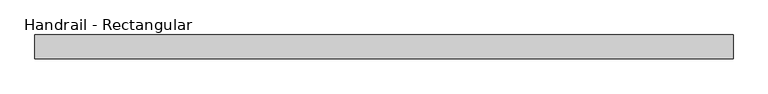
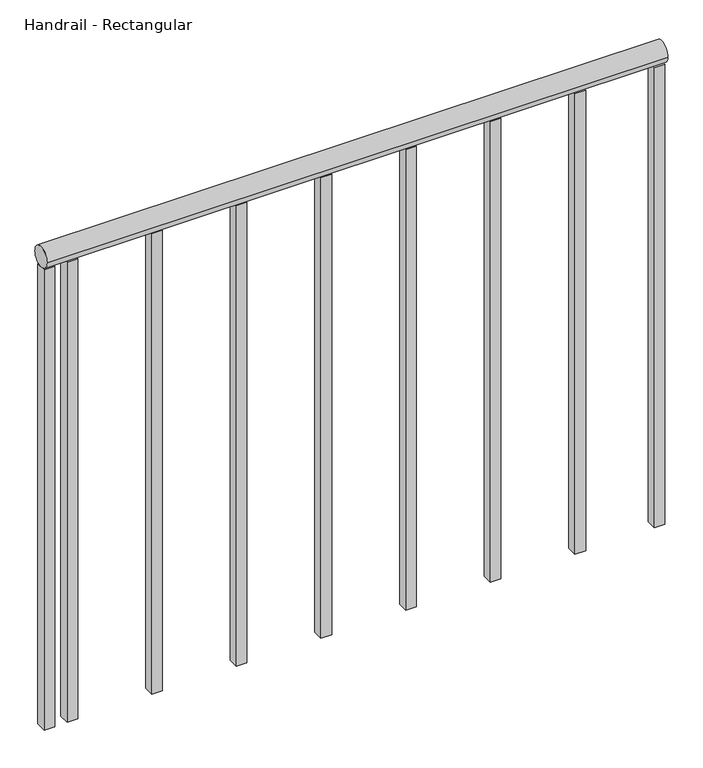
"""IFC4 building model written with IfcOpenShell, lengths in millimetres: railing geometry, Handrail - Rectangular."""

from ifc_helpers import new_model, si_unit, point, frame, frame_2d, origin, place, context, project, spatial, polyline, circle_curve, trimmed, segment, composite_curve, outline, extrude, source, transform, mapped, element, save


def handrail_rectangular_aef8fcb5(model_context):
    return source(origin(), model_context, "Body", "SweptSolid", [
        extrude(outline(composite_curve([segment(trimmed(circle_curve(frame_2d((-27983.9683133, 10039.35)), 19.05), [point((-27964.9183133, 10039.35))], [point((-28003.0183133, 10039.35))], False, "CARTESIAN"), True, "CONTINUOUS"), segment(trimmed(circle_curve(frame_2d((-27983.9683133, 10039.35)), 19.05), [point((-28003.0183133, 10039.35))], [point((-27964.9183133, 10039.35))], False, "CARTESIAN"), True, "CONTINUOUS")], self_intersect=False)), frame((976.3410437, 0.0, 0.0), z_axis=(1.0, 0.0, 0.0), x_axis=(0.0, 1.0, 0.0)), (0.0, 0.0, 1.0), 1117.6),
        extrude(outline(polyline([(1036.6660437, -27993.4933133), (1017.6160437, -27993.4933133), (1017.6160437, -27974.4433133), (1036.6660437, -27974.4433133), (1036.6660437, -27993.4933133)])), frame((0.0, 0.0, 9144.0), z_axis=(0.0, 0.0, 1.0), x_axis=(1.0, 0.0, 0.0)), (0.0, 0.0, 1.0), 876.3),
        extrude(outline(polyline([(1189.0660437, -27993.4933133), (1170.0160437, -27993.4933133), (1170.0160437, -27974.4433133), (1189.0660437, -27974.4433133), (1189.0660437, -27993.4933133)])), frame((0.0, 0.0, 9144.0), z_axis=(0.0, 0.0, 1.0), x_axis=(1.0, 0.0, 0.0)), (0.0, 0.0, 1.0), 876.3),
        extrude(outline(polyline([(1341.4660437, -27993.4933133), (1322.4160437, -27993.4933133), (1322.4160437, -27974.4433133), (1341.4660437, -27974.4433133), (1341.4660437, -27993.4933133)])), frame((0.0, 0.0, 9144.0), z_axis=(0.0, 0.0, 1.0), x_axis=(1.0, 0.0, 0.0)), (0.0, 0.0, 1.0), 876.3),
        extrude(outline(polyline([(1493.8660437, -27993.4933133), (1474.8160437, -27993.4933133), (1474.8160437, -27974.4433133), (1493.8660437, -27974.4433133), (1493.8660437, -27993.4933133)])), frame((0.0, 0.0, 9144.0), z_axis=(0.0, 0.0, 1.0), x_axis=(1.0, 0.0, 0.0)), (0.0, 0.0, 1.0), 876.3),
        extrude(outline(polyline([(1646.2660437, -27993.4933133), (1627.2160437, -27993.4933133), (1627.2160437, -27974.4433133), (1646.2660437, -27974.4433133), (1646.2660437, -27993.4933133)])), frame((0.0, 0.0, 9144.0), z_axis=(0.0, 0.0, 1.0), x_axis=(1.0, 0.0, 0.0)), (0.0, 0.0, 1.0), 876.3),
        extrude(outline(polyline([(1798.6660437, -27993.4933133), (1779.6160437, -27993.4933133), (1779.6160437, -27974.4433133), (1798.6660437, -27974.4433133), (1798.6660437, -27993.4933133)])), frame((0.0, 0.0, 9144.0), z_axis=(0.0, 0.0, 1.0), x_axis=(1.0, 0.0, 0.0)), (0.0, 0.0, 1.0), 876.3),
        extrude(outline(polyline([(1951.0660437, -27993.4933133), (1932.0160437, -27993.4933133), (1932.0160437, -27974.4433133), (1951.0660437, -27974.4433133), (1951.0660437, -27993.4933133)])), frame((0.0, 0.0, 9144.0), z_axis=(0.0, 0.0, 1.0), x_axis=(1.0, 0.0, 0.0)), (0.0, 0.0, 1.0), 876.3),
        extrude(outline(polyline([(995.3910437, -27993.4933133), (976.3410437, -27993.4933133), (976.3410437, -27974.4433133), (995.3910437, -27974.4433133), (995.3910437, -27993.4933133)])), frame((0.0, 0.0, 9144.0), z_axis=(0.0, 0.0, 1.0), x_axis=(1.0, 0.0, 0.0)), (0.0, 0.0, 1.0), 876.3),
        extrude(outline(polyline([(2093.9410437, -27993.4933133), (2074.8910437, -27993.4933133), (2074.8910437, -27974.4433133), (2093.9410437, -27974.4433133), (2093.9410437, -27993.4933133)])), frame((0.0, 0.0, 9144.0), z_axis=(0.0, 0.0, 1.0), x_axis=(1.0, 0.0, 0.0)), (0.0, 0.0, 1.0), 876.3),
    ])


if __name__ == "__main__":
    model = new_model("IFC4")
    model_context = context("Model", 3, world=origin())
    ifc_project = project(units=[si_unit("LENGTHUNIT", "METRE", prefix="MILLI")], contexts=[model_context])
    site = spatial("IfcSite", under=ifc_project)
    building = spatial("IfcBuilding", under=site)
    placement = place(None, origin())
    handrail_rectangular_shape = handrail_rectangular_aef8fcb5(model_context)
    element("IfcRailing", 1, ObjectType="Handrail - Rectangular", at=placement, inside=building, context=model_context, shape_type="MappedRepresentation", body=[
        mapped(handrail_rectangular_shape, transform((0.0, 0.0, 0.0), x_axis=(1.0, 0.0, 0.0), y_axis=(0.0, 1.0, 0.0), z_axis=(0.0, 0.0, 1.0))),
    ])
    save(model, "model.ifc")
